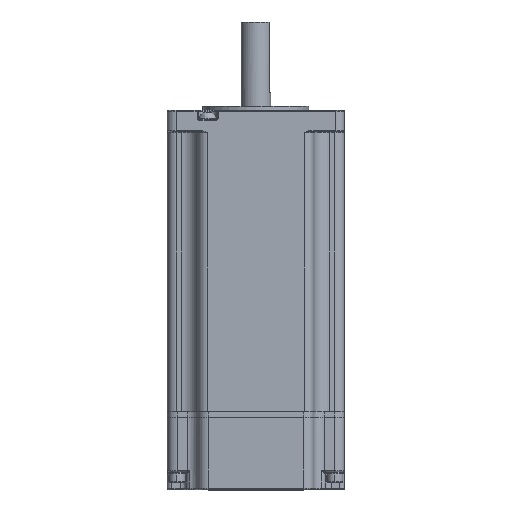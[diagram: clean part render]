
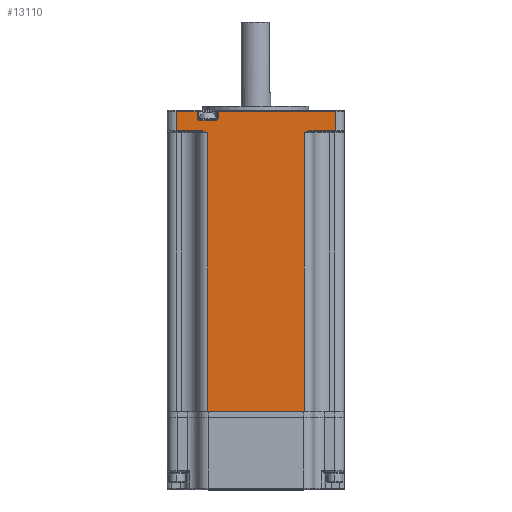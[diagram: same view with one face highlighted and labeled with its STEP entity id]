
A CAD part, top view. The second image highlights one B-rep face of the part: STEP entity #13110.
In plain terms, the highlighted planar face has unit normal (0, 0, 1).
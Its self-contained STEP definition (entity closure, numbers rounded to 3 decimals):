
#62=DIRECTION('',(1.,0.,0.));
#63=VECTOR('',#62,32.7);
#64=CARTESIAN_POINT('',(10.316,-12.92,80.405));
#65=LINE('',#64,#63);
#493=DIRECTION('',(0.,1.,0.));
#494=VECTOR('',#493,94.5);
#495=CARTESIAN_POINT('',(43.016,-12.92,80.405));
#496=LINE('',#495,#494);
#501=CARTESIAN_POINT('',(10.316,81.58,80.405));
#502=CARTESIAN_POINT('',(10.242,81.613,80.405));
#503=CARTESIAN_POINT('',(10.093,81.68,80.405));
#504=CARTESIAN_POINT('',(9.863,81.782,80.405));
#505=CARTESIAN_POINT('',(9.705,81.847,80.405));
#506=CARTESIAN_POINT('',(9.623,81.88,80.405));
#508=CARTESIAN_POINT('',(9.623,81.88,80.405));
#509=CARTESIAN_POINT('',(9.471,81.942,80.405));
#510=CARTESIAN_POINT('',(9.174,82.046,80.405));
#511=CARTESIAN_POINT('',(8.743,82.154,80.405));
#512=CARTESIAN_POINT('',(8.473,82.179,80.405));
#513=CARTESIAN_POINT('',(8.341,82.18,80.405));
#515=CARTESIAN_POINT('',(7.366,86.38,80.405));
#516=DIRECTION('',(0.,0.,1.));
#517=DIRECTION('',(-1.,0.,0.));
#518=AXIS2_PLACEMENT_3D('',#515,#516,#517);
#520=CARTESIAN_POINT('',(13.266,86.38,80.405));
#521=DIRECTION('',(0.,0.,1.));
#522=DIRECTION('',(0.,-1.,0.));
#523=AXIS2_PLACEMENT_3D('',#520,#521,#522);
#525=DIRECTION('',(-1.,0.,0.));
#526=VECTOR('',#525,8.675);
#527=CARTESIAN_POINT('',(53.666,82.18,80.405));
#528=LINE('',#527,#526);
#529=CARTESIAN_POINT('',(44.991,82.18,80.405));
#530=CARTESIAN_POINT('',(44.859,82.179,80.405));
#531=CARTESIAN_POINT('',(44.589,82.154,80.405));
#532=CARTESIAN_POINT('',(44.158,82.046,80.405));
#533=CARTESIAN_POINT('',(43.861,81.942,80.405));
#534=CARTESIAN_POINT('',(43.709,81.88,80.405));
#536=CARTESIAN_POINT('',(43.709,81.88,80.405));
#537=CARTESIAN_POINT('',(43.65,81.857,80.405));
#538=CARTESIAN_POINT('',(43.535,81.809,80.405));
#539=CARTESIAN_POINT('',(43.365,81.736,80.405));
#540=CARTESIAN_POINT('',(43.193,81.66,80.405));
#541=CARTESIAN_POINT('',(43.077,81.607,80.405));
#542=CARTESIAN_POINT('',(43.016,81.58,80.405));
#544=DIRECTION('',(0.,-1.,0.));
#545=VECTOR('',#544,94.5);
#546=CARTESIAN_POINT('',(10.316,81.58,80.405));
#547=LINE('',#546,#545);
#608=DIRECTION('',(0.,-1.,0.));
#609=VECTOR('',#608,6.6);
#610=CARTESIAN_POINT('',(-0.334,88.78,80.405));
#611=LINE('',#610,#609);
#2692=DIRECTION('',(0.,1.,0.));
#2693=VECTOR('',#2692,6.6);
#2694=CARTESIAN_POINT('',(53.666,82.18,80.405));
#2695=LINE('',#2694,#2693);
#2916=DIRECTION('',(-1.,0.,0.));
#2917=VECTOR('',#2916,39.8);
#2918=CARTESIAN_POINT('',(53.666,88.78,80.405));
#2919=LINE('',#2918,#2917);
#2939=DIRECTION('',(0.,-1.,0.));
#2940=VECTOR('',#2939,2.4);
#2941=CARTESIAN_POINT('',(13.866,88.78,80.405));
#2942=LINE('',#2941,#2940);
#2966=DIRECTION('',(-1.,0.,0.));
#2967=VECTOR('',#2966,5.9);
#2968=CARTESIAN_POINT('',(13.266,85.78,80.405));
#2969=LINE('',#2968,#2967);
#2989=DIRECTION('',(0.,1.,0.));
#2990=VECTOR('',#2989,2.4);
#2991=CARTESIAN_POINT('',(6.766,86.38,80.405));
#2992=LINE('',#2991,#2990);
#3012=DIRECTION('',(-1.,0.,0.));
#3013=VECTOR('',#3012,7.1);
#3014=CARTESIAN_POINT('',(6.766,88.78,80.405));
#3015=LINE('',#3014,#3013);
#4212=DIRECTION('',(1.,0.,0.));
#4213=VECTOR('',#4212,8.675);
#4214=CARTESIAN_POINT('',(-0.334,82.18,
80.405));
#4215=LINE('',#4214,#4213);
#10032=CARTESIAN_POINT('',(53.666,88.78,80.405));
#10034=VERTEX_POINT('',#10032);
#10036=CARTESIAN_POINT('',(-0.334,88.78,
80.405));
#10038=VERTEX_POINT('',#10036);
#11035=CARTESIAN_POINT('',(10.316,-12.92,
80.405));
#11036=VERTEX_POINT('',#11035);
#11037=CARTESIAN_POINT('',(43.016,-12.92,
80.405));
#11038=VERTEX_POINT('',#11037);
#11613=CARTESIAN_POINT('',(53.666,82.18,80.405));
#11614=CARTESIAN_POINT('',(44.991,82.18,80.405));
#11615=VERTEX_POINT('',#11613);
#11616=VERTEX_POINT('',#11614);
#11617=VERTEX_POINT('',#534);
#11618=CARTESIAN_POINT('',(13.866,88.78,80.405));
#11619=CARTESIAN_POINT('',(13.866,86.38,80.405));
#11620=VERTEX_POINT('',#11618);
#11621=VERTEX_POINT('',#11619);
#11622=CARTESIAN_POINT('',(13.266,85.78,80.405));
#11623=VERTEX_POINT('',#11622);
#11624=CARTESIAN_POINT('',(7.366,85.78,80.405));
#11625=VERTEX_POINT('',#11624);
#11626=CARTESIAN_POINT('',(6.766,86.38,80.405));
#11627=VERTEX_POINT('',#11626);
#11628=CARTESIAN_POINT('',(6.766,88.78,80.405));
#11629=VERTEX_POINT('',#11628);
#11630=CARTESIAN_POINT('',(-0.334,82.18,
80.405));
#11631=VERTEX_POINT('',#11630);
#11632=CARTESIAN_POINT('',(8.341,82.18,80.405));
#11633=VERTEX_POINT('',#11632);
#11634=VERTEX_POINT('',#508);
#11635=VERTEX_POINT('',#501);
#11636=VERTEX_POINT('',#542);
#13069=CARTESIAN_POINT('',(26.666,38.33,80.405));
#13070=DIRECTION('',(0.,0.,1.));
#13071=DIRECTION('',(-1.,0.,0.));
#13072=AXIS2_PLACEMENT_3D('',#13069,#13070,#13071);
#13073=PLANE('',#13072);
#13075=ORIENTED_EDGE('',*,*,#13074,.F.);
#13077=ORIENTED_EDGE('',*,*,#13076,.T.);
#13079=ORIENTED_EDGE('',*,*,#13078,.T.);
#13081=ORIENTED_EDGE('',*,*,#13080,.F.);
#13083=ORIENTED_EDGE('',*,*,#13082,.F.);
#13085=ORIENTED_EDGE('',*,*,#13084,.F.);
#13087=ORIENTED_EDGE('',*,*,#13086,.F.);
#13089=ORIENTED_EDGE('',*,*,#13088,.T.);
#13091=ORIENTED_EDGE('',*,*,#13090,.F.);
#13093=ORIENTED_EDGE('',*,*,#13092,.T.);
#13095=ORIENTED_EDGE('',*,*,#13094,.F.);
#13097=ORIENTED_EDGE('',*,*,#13096,.F.);
#13099=ORIENTED_EDGE('',*,*,#13098,.F.);
#13101=ORIENTED_EDGE('',*,*,#13100,.T.);
#13103=ORIENTED_EDGE('',*,*,#13102,.T.);
#13105=ORIENTED_EDGE('',*,*,#13104,.T.);
#13106=ORIENTED_EDGE('',*,*,#13053,.F.);
#13107=ORIENTED_EDGE('',*,*,#12413,.F.);
#13108=EDGE_LOOP('',(#13075,#13077,#13079,#13081,#13083,#13085,#13087,#13089,
#13091,#13093,#13095,#13097,#13099,#13101,#13103,#13105,#13106,#13107));
#13109=FACE_OUTER_BOUND('',#13108,.F.);
#13110=ADVANCED_FACE('',(#13109),#13073,.T.);
#507=B_SPLINE_CURVE_WITH_KNOTS('',3,(#501,#502,#503,#504,#505,#506),
.UNSPECIFIED.,.F.,.F.,(4,1,1,4),(0.,0.323,0.65,1.),
.UNSPECIFIED.);
#514=B_SPLINE_CURVE_WITH_KNOTS('',3,(#508,#509,#510,#511,#512,#513),
.UNSPECIFIED.,.F.,.F.,(4,1,1,4),(0.,0.333,0.667,1.),
.UNSPECIFIED.);
#519=CIRCLE('',#518,0.6);
#524=CIRCLE('',#523,0.6);
#535=B_SPLINE_CURVE_WITH_KNOTS('',3,(#529,#530,#531,#532,#533,#534),
.UNSPECIFIED.,.F.,.F.,(4,1,1,4),(0.,0.333,0.667,1.),
.UNSPECIFIED.);
#543=B_SPLINE_CURVE_WITH_KNOTS('',3,(#536,#537,#538,#539,#540,#541,#542),
.UNSPECIFIED.,.F.,.F.,(4,1,1,1,4),(0.,0.251,0.491,
0.736,1.),.UNSPECIFIED.);
#12413=EDGE_CURVE('',#11036,#11038,#65,.T.);
#13053=EDGE_CURVE('',#11038,#11636,#496,.T.);
#13074=EDGE_CURVE('',#11635,#11036,#547,.T.);
#13076=EDGE_CURVE('',#11635,#11634,#507,.T.);
#13078=EDGE_CURVE('',#11634,#11633,#514,.T.);
#13080=EDGE_CURVE('',#11631,#11633,#4215,.T.);
#13082=EDGE_CURVE('',#10038,#11631,#611,.T.);
#13084=EDGE_CURVE('',#11629,#10038,#3015,.T.);
#13086=EDGE_CURVE('',#11627,#11629,#2992,.T.);
#13088=EDGE_CURVE('',#11627,#11625,#519,.T.);
#13090=EDGE_CURVE('',#11623,#11625,#2969,.T.);
#13092=EDGE_CURVE('',#11623,#11621,#524,.T.);
#13094=EDGE_CURVE('',#11620,#11621,#2942,.T.);
#13096=EDGE_CURVE('',#10034,#11620,#2919,.T.);
#13098=EDGE_CURVE('',#11615,#10034,#2695,.T.);
#13100=EDGE_CURVE('',#11615,#11616,#528,.T.);
#13102=EDGE_CURVE('',#11616,#11617,#535,.T.);
#13104=EDGE_CURVE('',#11617,#11636,#543,.T.);
